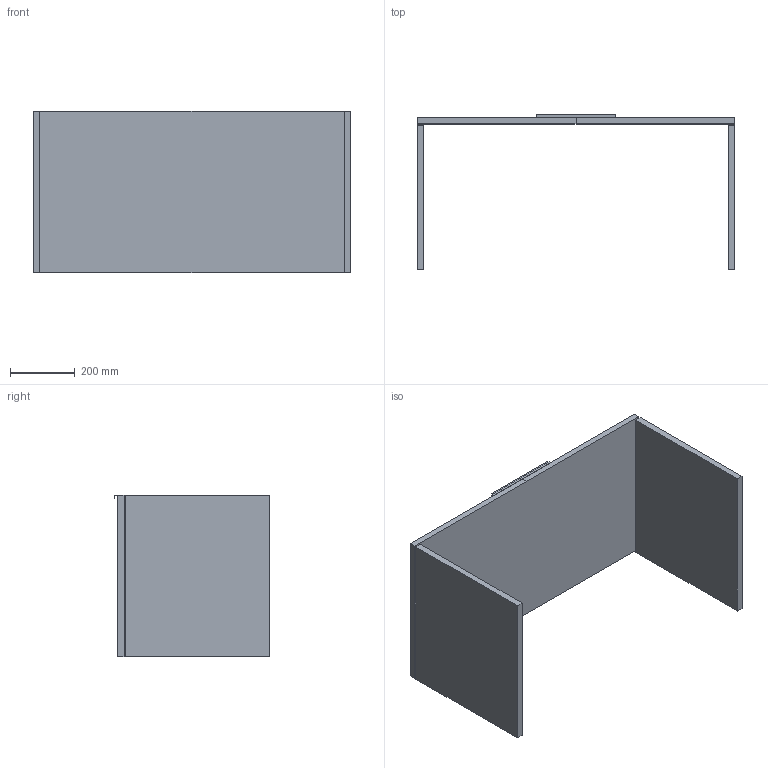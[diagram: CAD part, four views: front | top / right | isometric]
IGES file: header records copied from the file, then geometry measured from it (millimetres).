
Start section: START RECORD GO HERE.
Global section: file name: 6130.igs; native system: DASSAULT SYSTEMES CATIA V5 R19 - www.3ds.com; preprocessor: CATIA Version 5 Release 19 SP 5 ; author: gioge; organization: LAPTOP-G94B6G74; date: 20201003.151213; units: millimetre
Bounding box: 980 x 480 x 500 mm (x, y, z)
Surface area: 2014672 mm2 (no closed solid volume)
Topology: 0 solids, 0 shells, 28 faces, 120 edges, 120 vertices
Faces by surface type: plane 28
